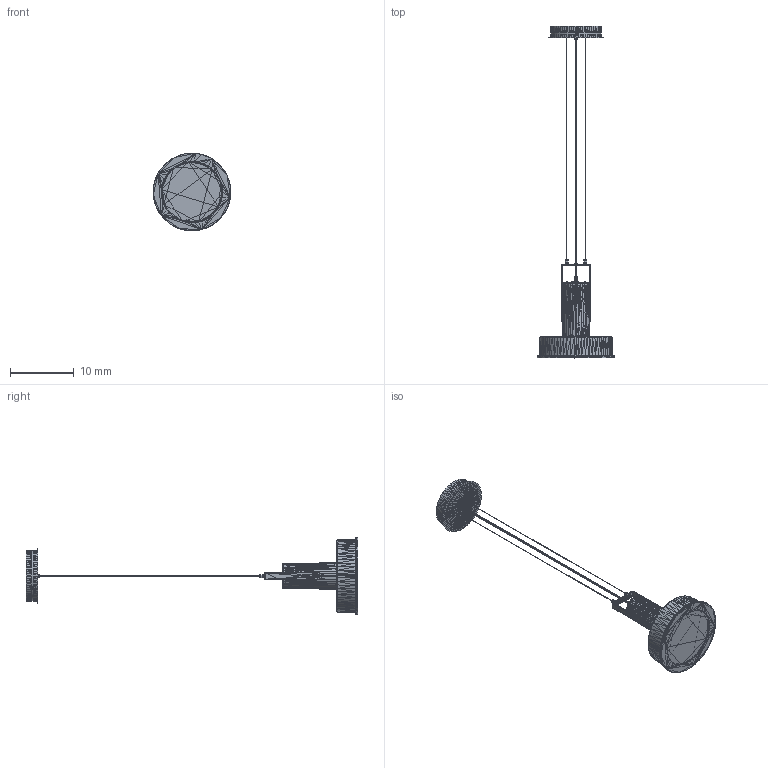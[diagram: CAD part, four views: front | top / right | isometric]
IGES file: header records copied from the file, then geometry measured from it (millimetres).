
Start section: SolidWorks IGES file using analytic representation for surfaces
Global section: file name: C:\SANTACOLE_PDM\Proyectos Catálogo\PROD-P14-016 -- ARNE INDOOR\6_Técnico comercial\3D\Arne Domus.IGS; native system: SolidWorks 2019; preprocessor: SolidWorks 2019; author: louis.ferraz; date: 200331.175208; units: millimetre
Bounding box: 12.2 x 52.22 x 12.21 mm (x, y, z)
Surface area: 1185.5 mm2 (no closed solid volume)
Topology: 0 solids, 0 shells, 28271 faces, 84828 edges, 84828 vertices
Faces by surface type: bspline 28271
